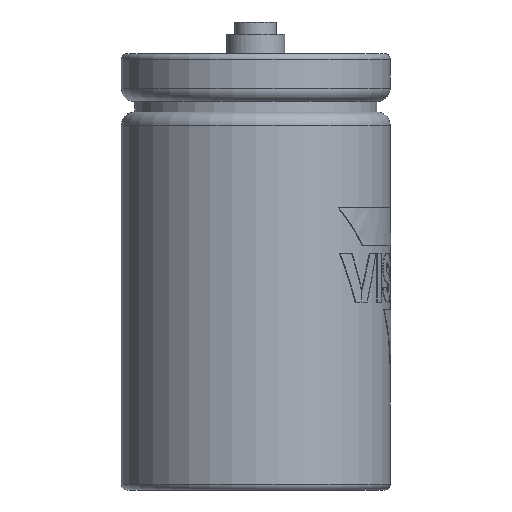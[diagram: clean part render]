
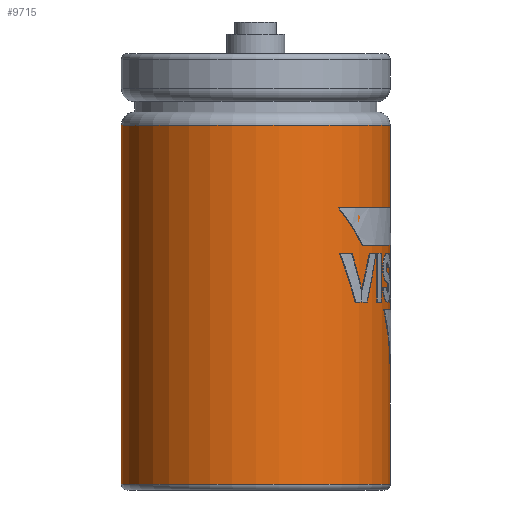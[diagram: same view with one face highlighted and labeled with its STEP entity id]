
A CAD part, left-side view. The second image highlights one B-rep face of the part: STEP entity #9715.
In plain terms, the highlighted cylindrical face has radius 25.5 mm (diameter 51 mm), a full revolution.
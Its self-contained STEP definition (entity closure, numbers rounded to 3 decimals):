
#9648 = TOROIDAL_SURFACE('',#9649,24.4,1.1);
#9649 = AXIS2_PLACEMENT_3D('',#9650,#9651,#9652);
#9650 = CARTESIAN_POINT('',(0.,0.,-80.6));
#9651 = DIRECTION('',(0.,0.,1.));
#9652 = DIRECTION('',(1.,0.,0.));
#9665 = VERTEX_POINT('',#9666);
#9666 = CARTESIAN_POINT('',(25.5,0.,-80.6));
#9688 = EDGE_CURVE('',#9665,#9665,#9689,.T.);
#9689 = SURFACE_CURVE('',#9690,(#9695,#9702),.PCURVE_S1.);
#9690 = CIRCLE('',#9691,25.5);
#9691 = AXIS2_PLACEMENT_3D('',#9692,#9693,#9694);
#9692 = CARTESIAN_POINT('',(0.,0.,-80.6));
#9693 = DIRECTION('',(0.,-0.,1.));
#9694 = DIRECTION('',(1.,0.,0.));
#9695 = PCURVE('',#9648,#9696);
#9696 = DEFINITIONAL_REPRESENTATION('',(#9697),#9701);
#9697 = LINE('',#9698,#9699);
#9698 = CARTESIAN_POINT('',(0.,6.283));
#9699 = VECTOR('',#9700,1.);
#9700 = DIRECTION('',(1.,0.));
#9701 = ( GEOMETRIC_REPRESENTATION_CONTEXT(2) 
PARAMETRIC_REPRESENTATION_CONTEXT() REPRESENTATION_CONTEXT('2D SPACE',''
  ) );
#9702 = PCURVE('',#9703,#9708);
#9703 = CYLINDRICAL_SURFACE('',#9704,25.5);
#9704 = AXIS2_PLACEMENT_3D('',#9705,#9706,#9707);
#9705 = CARTESIAN_POINT('',(0.,0.,-80.6));
#9706 = DIRECTION('',(0.,0.,1.));
#9707 = DIRECTION('',(1.,0.,0.));
#9708 = DEFINITIONAL_REPRESENTATION('',(#9709),#9713);
#9709 = LINE('',#9710,#9711);
#9710 = CARTESIAN_POINT('',(0.,0.));
#9711 = VECTOR('',#9712,1.);
#9712 = DIRECTION('',(1.,0.));
#9713 = ( GEOMETRIC_REPRESENTATION_CONTEXT(2) 
PARAMETRIC_REPRESENTATION_CONTEXT() REPRESENTATION_CONTEXT('2D SPACE',''
  ) );
#9715 = ADVANCED_FACE('',(#9716),#9703,.T.);
#9716 = FACE_BOUND('',#9717,.T.);
#9717 = EDGE_LOOP('',(#9718,#9719,#9742,#9769));
#9718 = ORIENTED_EDGE('',*,*,#9688,.T.);
#9719 = ORIENTED_EDGE('',*,*,#9720,.T.);
#9720 = EDGE_CURVE('',#9665,#9721,#9723,.T.);
#9721 = VERTEX_POINT('',#9722);
#9722 = CARTESIAN_POINT('',(25.5,0.,-12.5));
#9723 = SEAM_CURVE('',#9724,(#9728,#9735),.PCURVE_S1.);
#9724 = LINE('',#9725,#9726);
#9725 = CARTESIAN_POINT('',(25.5,0.,-80.6));
#9726 = VECTOR('',#9727,1.);
#9727 = DIRECTION('',(0.,0.,1.));
#9728 = PCURVE('',#9703,#9729);
#9729 = DEFINITIONAL_REPRESENTATION('',(#9730),#9734);
#9730 = LINE('',#9731,#9732);
#9731 = CARTESIAN_POINT('',(0.,0.));
#9732 = VECTOR('',#9733,1.);
#9733 = DIRECTION('',(0.,1.));
#9734 = ( GEOMETRIC_REPRESENTATION_CONTEXT(2) 
PARAMETRIC_REPRESENTATION_CONTEXT() REPRESENTATION_CONTEXT('2D SPACE',''
  ) );
#9735 = PCURVE('',#9703,#9736);
#9736 = DEFINITIONAL_REPRESENTATION('',(#9737),#9741);
#9737 = LINE('',#9738,#9739);
#9738 = CARTESIAN_POINT('',(6.283,0.));
#9739 = VECTOR('',#9740,1.);
#9740 = DIRECTION('',(0.,1.));
#9741 = ( GEOMETRIC_REPRESENTATION_CONTEXT(2) 
PARAMETRIC_REPRESENTATION_CONTEXT() REPRESENTATION_CONTEXT('2D SPACE',''
  ) );
#9742 = ORIENTED_EDGE('',*,*,#9743,.F.);
#9743 = EDGE_CURVE('',#9721,#9721,#9744,.T.);
#9744 = SURFACE_CURVE('',#9745,(#9750,#9757),.PCURVE_S1.);
#9745 = CIRCLE('',#9746,25.5);
#9746 = AXIS2_PLACEMENT_3D('',#9747,#9748,#9749);
#9747 = CARTESIAN_POINT('',(0.,0.,-12.5));
#9748 = DIRECTION('',(0.,-0.,1.));
#9749 = DIRECTION('',(1.,0.,0.));
#9750 = PCURVE('',#9703,#9751);
#9751 = DEFINITIONAL_REPRESENTATION('',(#9752),#9756);
#9752 = LINE('',#9753,#9754);
#9753 = CARTESIAN_POINT('',(0.,68.1));
#9754 = VECTOR('',#9755,1.);
#9755 = DIRECTION('',(1.,0.));
#9756 = ( GEOMETRIC_REPRESENTATION_CONTEXT(2) 
PARAMETRIC_REPRESENTATION_CONTEXT() REPRESENTATION_CONTEXT('2D SPACE',''
  ) );
#9757 = PCURVE('',#9758,#9763);
#9758 = TOROIDAL_SURFACE('',#9759,23.,2.5);
#9759 = AXIS2_PLACEMENT_3D('',#9760,#9761,#9762);
#9760 = CARTESIAN_POINT('',(0.,0.,-12.5));
#9761 = DIRECTION('',(0.,0.,1.));
#9762 = DIRECTION('',(1.,0.,0.));
#9763 = DEFINITIONAL_REPRESENTATION('',(#9764),#9768);
#9764 = LINE('',#9765,#9766);
#9765 = CARTESIAN_POINT('',(0.,0.));
#9766 = VECTOR('',#9767,1.);
#9767 = DIRECTION('',(1.,0.));
#9768 = ( GEOMETRIC_REPRESENTATION_CONTEXT(2) 
PARAMETRIC_REPRESENTATION_CONTEXT() REPRESENTATION_CONTEXT('2D SPACE',''
  ) );
#9769 = ORIENTED_EDGE('',*,*,#9720,.F.);
